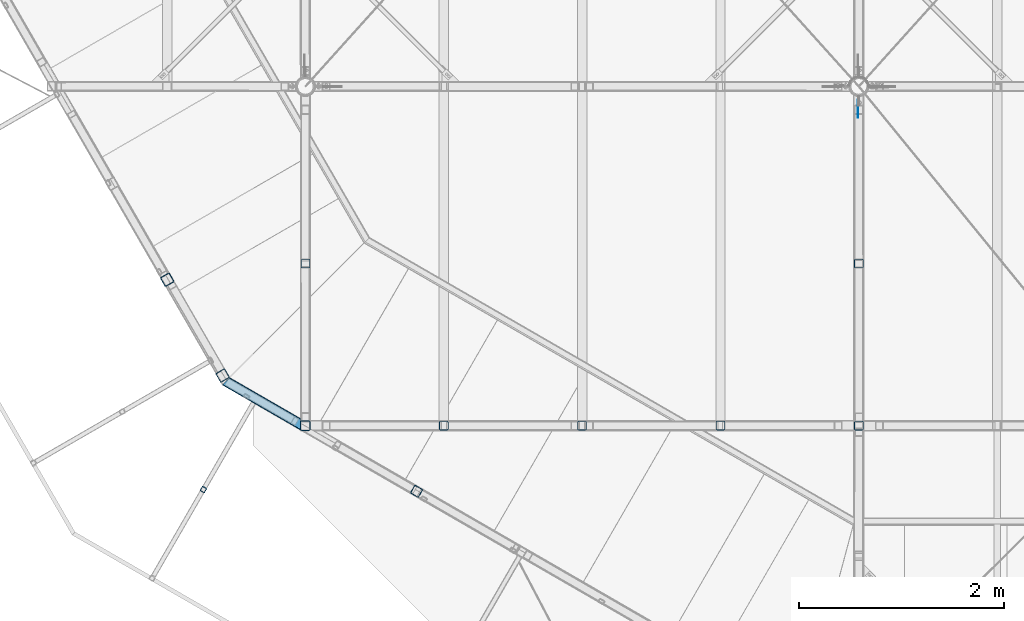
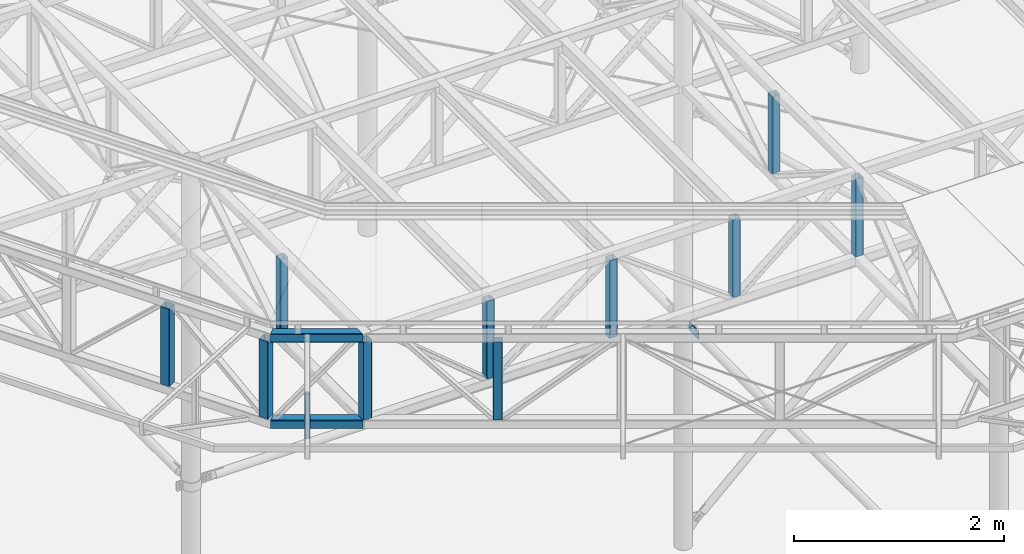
# One storey, part 63 of 132: 14 discrete accessories, 6 elements without a shape of their own.
"""IFC2X3 building model written with IfcOpenShell, lengths in millimetres."""

from ifc_helpers import new_model, si_unit, frame, origin_with_axes, origin_2d_with_axis, place, context, subcontext, project, spatial, polyline, hollow_rectangle, outline, extrude, clip, halfspace, material, type_object, element, aggregate, save


model = new_model("IFC2X3")

# Units and contexts
model_context = context("Model", 3, precision=1e-05, world=origin_with_axes())
body_context = subcontext(model_context, "Body", "Model", "MODEL_VIEW")
ifc_project = project(units=[si_unit("LENGTHUNIT", "METRE", prefix="MILLI"), si_unit("AREAUNIT", "SQUARE_METRE"), si_unit("VOLUMEUNIT", "CUBIC_METRE"), si_unit("MASSUNIT", "GRAM", prefix="KILO"), si_unit("TIMEUNIT", "SECOND"), si_unit("PLANEANGLEUNIT", "RADIAN"), si_unit("SOLIDANGLEUNIT", "STERADIAN"), si_unit("THERMODYNAMICTEMPERATUREUNIT", "DEGREE_CELSIUS"), si_unit("LUMINOUSINTENSITYUNIT", "LUMEN")], contexts=[model_context])

# Site, building, storey
site_placement = place(None, origin_with_axes())
site = spatial("IfcSite", under=ifc_project, at=site_placement, Name="Budowa", CompositionType="ELEMENT")
building_placement = place(site_placement, origin_with_axes())
building = spatial("IfcBuilding", under=site, at=building_placement, Name="Undefined", CompositionType="ELEMENT")
storey_placement = place(building_placement, origin_with_axes())
storey = spatial("IfcBuildingStorey", under=building, at=storey_placement, Name="Undefined", CompositionType="ELEMENT", Elevation=0.0)

# Assembly, discrete accessory
assembly_1_placement = place(storey_placement, origin_with_axes())
assembly_1 = element("IfcElementAssembly", 1, at=assembly_1_placement, inside=storey, Name="Steel Assembly", AssemblyPlace="NOTDEFINED", PredefinedType="RIGID_FRAME")
ifc_material = material(Name="STEEL/S235")
discrete_accessory_type_1 = type_object("IfcDiscreteAccessoryType", Name="BLACHA")
discrete_accessory_1_placement = place(assembly_1_placement, frame((9417.0000024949, 5872.09209471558, 10116.0003779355), z_axis=(1.0, 0.0, 0.0), x_axis=(0.0, -1.0, 0.0)))
discrete_accessory_1 = element("IfcDiscreteAccessory", 2, at=discrete_accessory_1_placement, type_object=discrete_accessory_type_1, material=ifc_material, Name="BLACHA", ObjectType="BL8*100", context=body_context, shape_type="SweptSolid", body=[
    extrude(outline(polyline([(180.0, 50.0), (180.0, -50.0), (0.0, -50.0), (0.0, 50.0), (180.0, 50.0)])), frame((0.0, 0.0, -4.0), z_axis=(0.0, 0.0, 1.0), x_axis=(1.0, 0.0, 0.0)), (0.0, 0.0, 1.0), 8.0),
])
aggregate(assembly_1, [discrete_accessory_1])

assembly_2_placement = place(storey_placement, origin_with_axes())
assembly_2 = element("IfcElementAssembly", 3, at=assembly_2_placement, inside=storey, Name="Steel Assembly", AssemblyPlace="NOTDEFINED", PredefinedType="RIGID_FRAME")
discrete_accessory_type_2 = type_object("IfcDiscreteAccessoryType", Name="BEAM")
discrete_accessory_2_placement = place(assembly_2_placement, frame((3029.55200915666, 2066.84601771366, 13878.94002838), z_axis=(-0.866042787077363, 0.499969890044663, 0.0), x_axis=(0.0, 0.0, -1.0)))
discrete_accessory_2 = element("IfcDiscreteAccessory", 4, at=discrete_accessory_2_placement, type_object=discrete_accessory_type_2, material=ifc_material, Name="BEAM", ObjectType="SHS50*4", context=body_context, shape_type="Clipping", body=[
    clip(clip(extrude(hollow_rectangle(XDim=50.0, YDim=50.0, WallThickness=4.0, InnerFilletRadius=4.0, OuterFilletRadius=8.0, at=origin_2d_with_axis()), frame((545.085010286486, 0.0, 0.0), z_axis=(-1.0, 0.0, 0.0), x_axis=(0.0, -1.0, 0.0)), (0.0, 0.0, 1.0), 559.36), halfspace(frame((536.667324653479, -11.620388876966, 1000.0), z_axis=(-0.885407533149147, -0.464815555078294, 0.0), x_axis=(0.464815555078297, -0.885407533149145, 0.0)), True)), halfspace(frame((0.185048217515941, 1.24844042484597, 1000.0), z_axis=(0.998752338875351, 0.0499376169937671, 0.0), x_axis=(-0.0499376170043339, 0.998752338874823, 2.09020387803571e-11)), True)),
])
aggregate(assembly_2, [discrete_accessory_2])

# Assembly, discrete accessories
assembly_3_placement = place(storey_placement, origin_with_axes())
assembly_3 = element("IfcElementAssembly", 5, at=assembly_3_placement, inside=storey, Name="Steel Assembly", AssemblyPlace="NOTDEFINED", PredefinedType="RIGID_FRAME")
discrete_accessory_3_placement = place(assembly_3_placement, frame((2677.18336835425, 4114.06140535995, 12879.9999999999), z_axis=(0.0, 0.0, 1.0), x_axis=(-0.866025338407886, -0.500000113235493, 0.0)))
discrete_accessory_3 = element("IfcDiscreteAccessory", 6, at=discrete_accessory_3_placement, type_object=discrete_accessory_type_2, material=ifc_material, Name="BEAM", ObjectType="SHS100*4", context=body_context, shape_type="Clipping", body=[
    clip(clip(extrude(hollow_rectangle(XDim=100.0, YDim=100.0, WallThickness=4.0, InnerFilletRadius=4.0, OuterFilletRadius=8.0, at=origin_2d_with_axis()), frame((0.0, 0.0, 900.0), z_axis=(0.0, 0.0, -1.0), x_axis=(0.0, 1.0, 0.0)), (0.0, 0.0, 1.0), 900.0), halfspace(frame((1000.0, 0.0, 900.0), z_axis=(0.0, 0.0, -1.0), x_axis=(0.0, 1.0, 0.0)), True)), halfspace(frame((1000.0, 0.0, 0.0), z_axis=(0.0, 0.0, 1.0), x_axis=(0.0, -1.0, 0.0)), True)),
])
discrete_accessory_4_placement = place(assembly_3_placement, frame((3217.18342312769, 3178.75400089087, 12879.9999999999), z_axis=(0.0, 0.0, 1.0), x_axis=(-0.866025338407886, -0.500000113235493, 0.0)))
discrete_accessory_4 = element("IfcDiscreteAccessory", 7, at=discrete_accessory_4_placement, type_object=discrete_accessory_type_2, material=ifc_material, Name="BEAM", ObjectType="SHS100*4", context=body_context, shape_type="Clipping", body=[
    clip(clip(extrude(hollow_rectangle(XDim=100.0, YDim=100.0, WallThickness=4.0, InnerFilletRadius=4.0, OuterFilletRadius=8.0, at=origin_2d_with_axis()), frame((0.0, 0.0, 900.0), z_axis=(0.0, 0.0, -1.0), x_axis=(0.0, 1.0, 0.0)), (0.0, 0.0, 1.0), 900.0), halfspace(frame((1000.0, 0.0, 900.0), z_axis=(0.0, 0.0, -1.0), x_axis=(0.0, 1.0, 0.0)), True)), halfspace(frame((1000.0, 0.0, 0.0), z_axis=(0.0, 0.0, 1.0), x_axis=(0.0, -1.0, 0.0)), True)),
])
discrete_accessory_5_placement = place(assembly_3_placement, frame((4003.01280467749, 2688.48708068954, 12830.0), z_axis=(0.0, 0.0, 1.0), x_axis=(-0.866042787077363, 0.499969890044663, 0.0)))
discrete_accessory_5 = element("IfcDiscreteAccessory", 8, at=discrete_accessory_5_placement, type_object=discrete_accessory_type_2, material=ifc_material, Name="BEAM", ObjectType="SHS100*5", context=body_context, shape_type="Clipping", body=[
    clip(clip(extrude(hollow_rectangle(XDim=100.0, YDim=100.0, WallThickness=5.0, InnerFilletRadius=5.0, OuterFilletRadius=10.0, at=origin_2d_with_axis()), frame((950.430426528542, 0.0, 0.0), z_axis=(-1.0, 0.0, 0.0), x_axis=(0.0, -1.0, 0.0)), (0.0, 0.0, 1.0), 950.43), halfspace(frame((3.48055581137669, 50.0000000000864, -50.0), z_axis=(-0.866042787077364, -0.499969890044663, 0.0), x_axis=(0.0, 0.0, 1.0)), False)), halfspace(frame((857.378660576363, -50.00000000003, 0.0), z_axis=(0.965921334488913, -0.258835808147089, 0.0), x_axis=(0.0, 0.0, 1.0)), False)),
])
discrete_accessory_6_placement = place(assembly_3_placement, frame((4003.01280467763, 2688.48708068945, 13830.0), z_axis=(0.0, 0.0, 1.0), x_axis=(-0.866042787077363, 0.499969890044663, 0.0)))
discrete_accessory_6 = element("IfcDiscreteAccessory", 9, at=discrete_accessory_6_placement, type_object=discrete_accessory_type_2, material=ifc_material, Name="BEAM", ObjectType="SHS100*5", context=body_context, shape_type="Clipping", body=[
    clip(clip(extrude(hollow_rectangle(XDim=100.0, YDim=100.0, WallThickness=5.0, InnerFilletRadius=5.0, OuterFilletRadius=10.0, at=origin_2d_with_axis()), frame((950.430426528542, 0.0, 0.0), z_axis=(-1.0, 0.0, 0.0), x_axis=(0.0, -1.0, 0.0)), (0.0, 0.0, 1.0), 950.43), halfspace(frame((3.48055581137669, 50.0000000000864, -50.0), z_axis=(-0.866042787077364, -0.499969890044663, 0.0), x_axis=(0.0, 0.0, 1.0)), False)), halfspace(frame((857.378660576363, -50.00000000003, 0.0), z_axis=(0.965921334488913, -0.258835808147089, 0.0), x_axis=(0.0, 0.0, 1.0)), False)),
])
aggregate(assembly_3, [discrete_accessory_3, discrete_accessory_4, discrete_accessory_5, discrete_accessory_6])

# Assembly, discrete accessory
assembly_4_placement = place(storey_placement, origin_with_axes())
assembly_4 = element("IfcElementAssembly", 10, at=assembly_4_placement, inside=storey, Name="Steel Assembly", AssemblyPlace="NOTDEFINED", PredefinedType="RIGID_FRAME")
discrete_accessory_7_placement = place(assembly_4_placement, frame((5109.60877879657, 2049.68130816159, 12880.0), z_axis=(0.0, 0.0, 1.0), x_axis=(-0.499969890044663, -0.866042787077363, 0.0)))
discrete_accessory_7 = element("IfcDiscreteAccessory", 11, at=discrete_accessory_7_placement, type_object=discrete_accessory_type_2, material=ifc_material, Name="BEAM", ObjectType="SHS90*4", context=body_context, shape_type="Clipping", body=[
    clip(clip(extrude(hollow_rectangle(XDim=90.0, YDim=90.0, WallThickness=4.0, InnerFilletRadius=4.0, OuterFilletRadius=8.0, at=origin_2d_with_axis()), frame((0.0, 0.0, 900.0), z_axis=(0.0, 0.0, -1.0), x_axis=(0.0, 1.0, 0.0)), (0.0, 0.0, 1.0), 900.0), halfspace(frame((1000.0, 0.0, 900.0), z_axis=(0.0, 0.0, -1.0), x_axis=(0.0, 1.0, 0.0)), True)), halfspace(frame((1000.0, 0.0, 0.0), z_axis=(0.0, 0.0, 1.0), x_axis=(0.0, -1.0, 0.0)), True)),
])

# Assembly, discrete accessories
assembly_5_placement = place(storey_placement, origin_with_axes())
assembly_5 = element("IfcElementAssembly", 12, at=assembly_5_placement, inside=storey, Name="Steel Assembly", AssemblyPlace="NOTDEFINED", PredefinedType="RIGID_FRAME")
discrete_accessory_8_placement = place(assembly_5_placement, frame((8074.99999993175, 2690.00000004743, 13780.0), z_axis=(0.0, -1.0, 0.0), x_axis=(0.0, 0.0, -1.0)))
discrete_accessory_8 = element("IfcDiscreteAccessory", 13, at=discrete_accessory_8_placement, type_object=discrete_accessory_type_2, material=ifc_material, Name="BEAM", ObjectType="SHS90*6", context=body_context, shape_type="Clipping", body=[
    clip(clip(extrude(hollow_rectangle(XDim=90.0, YDim=90.0, WallThickness=6.0, InnerFilletRadius=6.0, OuterFilletRadius=12.0, at=origin_2d_with_axis()), frame((900.0, 0.0, 0.0), z_axis=(-1.0, 0.0, 0.0), x_axis=(0.0, -1.0, 0.0)), (0.0, 0.0, 1.0), 900.0), halfspace(frame((900.0, 0.0, 1000.0), z_axis=(-1.0, 0.0, 0.0), x_axis=(0.0, -1.0, 0.0)), True)), halfspace(frame((0.0, 0.0, 1000.0), z_axis=(1.0, 0.0, 0.0), x_axis=(0.0, 1.0, 0.0)), True)),
])
discrete_accessory_9_placement = place(assembly_5_placement, frame((5374.99999993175, 2690.00000004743, 13780.0), z_axis=(0.0, -1.0, 0.0), x_axis=(0.0, 0.0, -1.0)))
discrete_accessory_9 = element("IfcDiscreteAccessory", 14, at=discrete_accessory_9_placement, type_object=discrete_accessory_type_2, material=ifc_material, Name="BEAM", ObjectType="SHS90*6", context=body_context, shape_type="Clipping", body=[
    clip(clip(extrude(hollow_rectangle(XDim=90.0, YDim=90.0, WallThickness=6.0, InnerFilletRadius=6.0, OuterFilletRadius=12.0, at=origin_2d_with_axis()), frame((900.0, 0.0, 0.0), z_axis=(-1.0, 0.0, 0.0), x_axis=(0.0, -1.0, 0.0)), (0.0, 0.0, 1.0), 900.0), halfspace(frame((900.0, 0.0, 1000.0), z_axis=(-1.0, 0.0, 0.0), x_axis=(0.0, -1.0, 0.0)), True)), halfspace(frame((0.0, 0.0, 1000.0), z_axis=(1.0, 0.0, 0.0), x_axis=(0.0, 1.0, 0.0)), True)),
])
discrete_accessory_10_placement = place(assembly_5_placement, frame((6724.99999993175, 2690.00000004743, 13780.0), z_axis=(0.0, -1.0, 0.0), x_axis=(0.0, 0.0, -1.0)))
discrete_accessory_10 = element("IfcDiscreteAccessory", 15, at=discrete_accessory_10_placement, type_object=discrete_accessory_type_2, material=ifc_material, Name="BEAM", ObjectType="SHS90*6", context=body_context, shape_type="Clipping", body=[
    clip(clip(extrude(hollow_rectangle(XDim=90.0, YDim=90.0, WallThickness=6.0, InnerFilletRadius=6.0, OuterFilletRadius=12.0, at=origin_2d_with_axis()), frame((900.0, 0.0, 0.0), z_axis=(-1.0, 0.0, 0.0), x_axis=(0.0, -1.0, 0.0)), (0.0, 0.0, 1.0), 900.0), halfspace(frame((900.0, 0.0, 1000.0), z_axis=(-1.0, 0.0, 0.0), x_axis=(0.0, -1.0, 0.0)), True)), halfspace(frame((0.0, 0.0, 1000.0), z_axis=(1.0, 0.0, 0.0), x_axis=(0.0, 1.0, 0.0)), True)),
])
aggregate(assembly_5, [discrete_accessory_8, discrete_accessory_9, discrete_accessory_10])

assembly_6_placement = place(storey_placement, origin_with_axes())
assembly_6 = element("IfcElementAssembly", 16, at=assembly_6_placement, inside=storey, Name="Steel Assembly", AssemblyPlace="NOTDEFINED", PredefinedType="RIGID_FRAME")
discrete_accessory_11_placement = place(assembly_6_placement, frame((4024.99999991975, 4271.10000004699, 13780.0000000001), z_axis=(1.0, 0.0, 0.0), x_axis=(0.0, 0.0, -1.0)))
discrete_accessory_11 = element("IfcDiscreteAccessory", 17, at=discrete_accessory_11_placement, type_object=discrete_accessory_type_2, material=ifc_material, Name="BEAM", ObjectType="SHS90*6", context=body_context, shape_type="Clipping", body=[
    clip(clip(extrude(hollow_rectangle(XDim=90.0, YDim=90.0, WallThickness=6.0, InnerFilletRadius=6.0, OuterFilletRadius=12.0, at=origin_2d_with_axis()), frame((900.0, 0.0, 0.0), z_axis=(-1.0, 0.0, 0.0), x_axis=(0.0, -1.0, 0.0)), (0.0, 0.0, 1.0), 900.0), halfspace(frame((900.0, 0.0, 1000.0), z_axis=(-1.0, 0.0, 0.0), x_axis=(0.0, -1.0, 0.0)), True)), halfspace(frame((0.0, 0.0, 1000.0), z_axis=(1.0, 0.0, 0.0), x_axis=(0.0, 1.0, 0.0)), True)),
])
discrete_accessory_12_placement = place(assembly_6_placement, frame((4024.99999991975, 2690.00000004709, 13780.0000000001), z_axis=(1.0, 0.0, 0.0), x_axis=(0.0, 0.0, -1.0)))
discrete_accessory_12 = element("IfcDiscreteAccessory", 18, at=discrete_accessory_12_placement, type_object=discrete_accessory_type_2, material=ifc_material, Name="BEAM", ObjectType="SHS100*8", context=body_context, shape_type="Clipping", body=[
    clip(clip(extrude(hollow_rectangle(XDim=100.0, YDim=100.0, WallThickness=8.0, InnerFilletRadius=8.0, OuterFilletRadius=16.0, at=origin_2d_with_axis()), frame((900.0, 0.0, 0.0), z_axis=(-1.0, 0.0, 0.0), x_axis=(0.0, -1.0, 0.0)), (0.0, 0.0, 1.0), 900.0), halfspace(frame((900.0, 0.0, 1000.0), z_axis=(-1.0, 0.0, 0.0), x_axis=(0.0, -1.0, 0.0)), True)), halfspace(frame((0.0, 0.0, 1000.0), z_axis=(1.0, 0.0, 0.0), x_axis=(0.0, 1.0, 0.0)), True)),
])
aggregate(assembly_6, [discrete_accessory_11, discrete_accessory_12])

# Discrete accessory
discrete_accessory_13_placement = place(assembly_4_placement, frame((9424.99999994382, 4271.00000004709, 12880.0), z_axis=(0.0, 0.0, 1.0), x_axis=(-1.0, 0.0, 0.0)))
discrete_accessory_13 = element("IfcDiscreteAccessory", 19, at=discrete_accessory_13_placement, type_object=discrete_accessory_type_2, material=ifc_material, Name="BEAM", ObjectType="SHS90*6", context=body_context, shape_type="Clipping", body=[
    clip(clip(extrude(hollow_rectangle(XDim=90.0, YDim=90.0, WallThickness=6.0, InnerFilletRadius=6.0, OuterFilletRadius=12.0, at=origin_2d_with_axis()), frame((0.0, 0.0, 900.0), z_axis=(0.0, 0.0, -1.0), x_axis=(0.0, 1.0, 0.0)), (0.0, 0.0, 1.0), 900.0), halfspace(frame((1000.0, 0.0, 900.0), z_axis=(0.0, 0.0, -1.0), x_axis=(0.0, 1.0, 0.0)), True)), halfspace(frame((1000.0, 0.0, 0.0), z_axis=(0.0, 0.0, 1.0), x_axis=(0.0, -1.0, 0.0)), True)),
])

discrete_accessory_14_placement = place(assembly_4_placement, frame((9424.99999994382, 2690.00000004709, 12880.0), z_axis=(0.0, 0.0, 1.0), x_axis=(-1.0, 0.0, 0.0)))
discrete_accessory_14 = element("IfcDiscreteAccessory", 20, at=discrete_accessory_14_placement, type_object=discrete_accessory_type_2, material=ifc_material, Name="BEAM", ObjectType="SHS90*6", context=body_context, shape_type="Clipping", body=[
    clip(clip(extrude(hollow_rectangle(XDim=90.0, YDim=90.0, WallThickness=6.0, InnerFilletRadius=6.0, OuterFilletRadius=12.0, at=origin_2d_with_axis()), frame((0.0, 0.0, 900.0), z_axis=(0.0, 0.0, -1.0), x_axis=(0.0, 1.0, 0.0)), (0.0, 0.0, 1.0), 900.0), halfspace(frame((1000.0, 0.0, 900.0), z_axis=(0.0, 0.0, -1.0), x_axis=(0.0, 1.0, 0.0)), True)), halfspace(frame((1000.0, 0.0, 0.0), z_axis=(0.0, 0.0, 1.0), x_axis=(0.0, -1.0, 0.0)), True)),
])

aggregate(assembly_4, [discrete_accessory_7, discrete_accessory_13, discrete_accessory_14])

save(model, "model.ifc")
